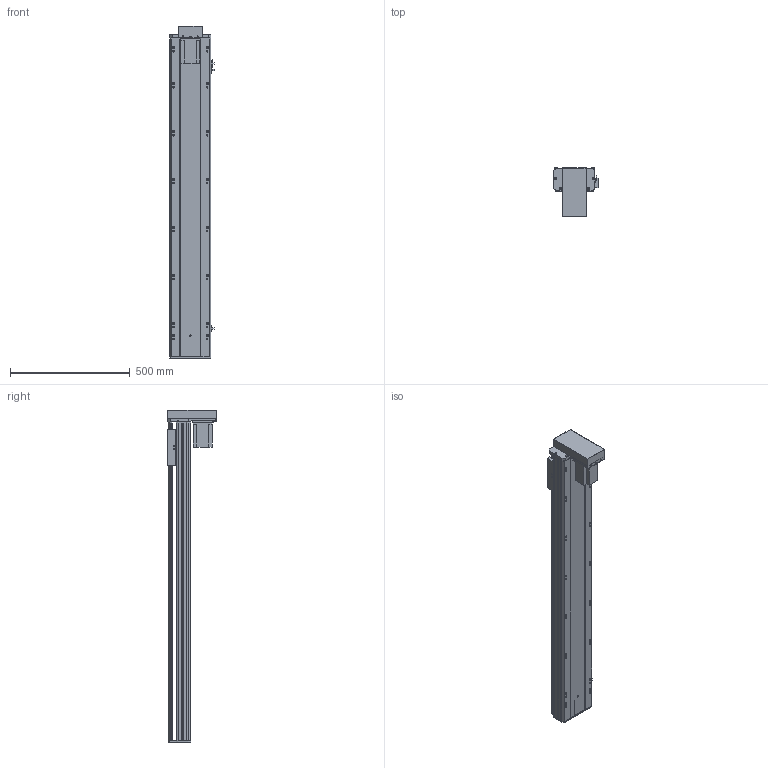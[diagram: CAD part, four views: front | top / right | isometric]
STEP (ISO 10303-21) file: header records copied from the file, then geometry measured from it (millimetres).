
FILE_DESCRIPTION (( 'STEP AP203' ), '1' );
FILE_NAME ('Y170-D10-S1100-BM-P750W.STEP', '2020-01-22T03:20:49', ( '微软用户' ), ( '微软中国' ), 'SwSTEP 2.0', 'SolidWorks 2017', '' );
FILE_SCHEMA (( 'CONFIG_CONTROL_DESIGN' ));
Length unit declared in the file: millimetre
Products named in the file (12): 170-BM耜蚾蟀諉啣; Y170-BM--P750W楊擘啣; -BM俋袗; Y170耜裔--準---; YD-Y100-135-新外置传感挡片(通用）; 170--掛极-BR; Y100-135俋离換覜ん; 侂狟750W; Y170-D10-S1100-BM-P750W; EGH20賑輸_蕼偞; Y雄赽釱-耜蚾; Y170-陔遴奻裔-BR
Assembly tree (14 placements, depth 2):
  Y170-D10-S1100-BM-P750W
    Y170耜裔--準---
    170--掛极-BR
    侂狟750W
    EGH20賑輸_蕼偞  x2
    Y雄赽釱-耜蚾
    Y170-陔遴奻裔-BR
    170-BM耜蚾蟀諉啣
    Y170-BM--P750W楊擘啣
    -BM俋袗
    YD-Y100-135-新外置传感挡片(通用）
    Y100-135俋离換覜ん  x3
Bounding box: 183.5 x 203.5 x 1383.5 mm (x, y, z)
Volume: 6426700.1 mm3; surface area: 2226661.9 mm2
Topology: 14 solids, 14 shells, 930 faces, 2652 edges, 1750 vertices
Faces by surface type: cylinder 478, plane 436, cone 16
Entity records: 29786 total; most frequent: CARTESIAN_POINT 5375, DIRECTION 4904, ORIENTED_EDGE 4800, EDGE_CURVE 2400, AXIS2_PLACEMENT_3D 1747, VERTEX_POINT 1594, LINE 1410, VECTOR 1410
